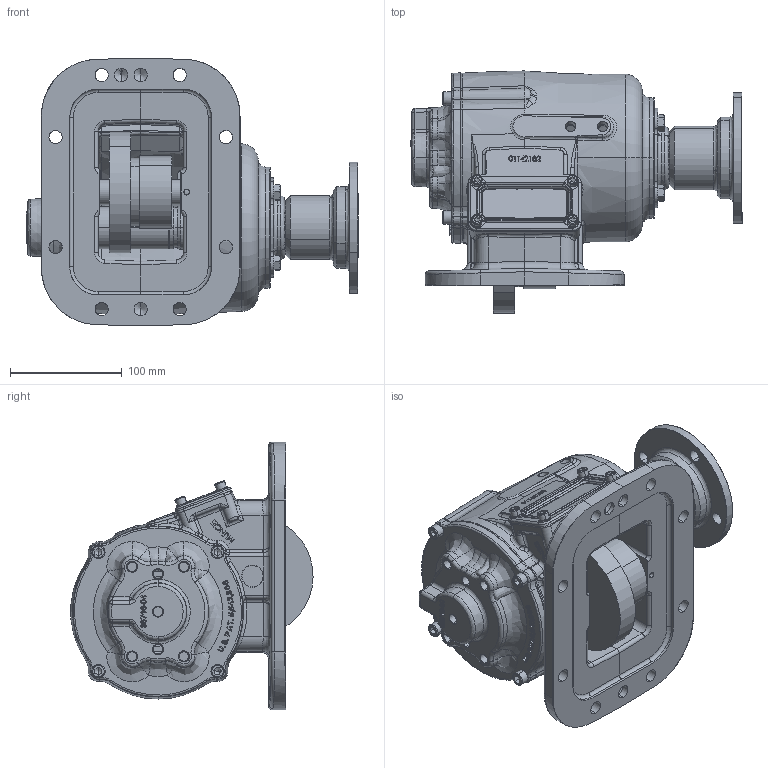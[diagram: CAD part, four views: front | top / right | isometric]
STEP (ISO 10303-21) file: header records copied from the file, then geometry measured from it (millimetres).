
FILE_DESCRIPTION (( 'STEP AP203' ), '1' );
FILE_NAME ('CS8S-XXXXX-X1CX.STEP', '2012-06-01T18:23:38', ( '' ), ( '' ), 'SwSTEP 2.0', 'SolidWorks 2012', '' );
FILE_SCHEMA (( 'CONFIG_CONTROL_DESIGN' ));
Products named in the file (6): CS8S-XXXXX-X1CX; 14T37357; 19T33233; 15T34576; 06t37372a; CS8S-XXXXX-X1XX
Assembly tree (8 placements, depth 2):
  CS8S-XXXXX-X1CX
    CS8S-XXXXX-X1XX
    06t37372a
    15T34576
    19T33233  x4
    14T37357
Bounding box: 297.17 x 216.73 x 239.61 mm (x, y, z)
Volume: 2103350.4 mm3; surface area: 488619.9 mm2
Topology: 6 solids, 26 shells, 2348 faces, 5869 edges, 3634 vertices
Faces by surface type: bspline 758, plane 654, cylinder 521, cone 297, torus 112, sphere 6
Entity records: 118362 total; most frequent: CARTESIAN_POINT 69468, ORIENTED_EDGE 11148, DIRECTION 8257, EDGE_CURVE 5575, VERTEX_POINT 3502, AXIS2_PLACEMENT_3D 3073, EDGE_LOOP 2474, FACE_OUTER_BOUND 2249
